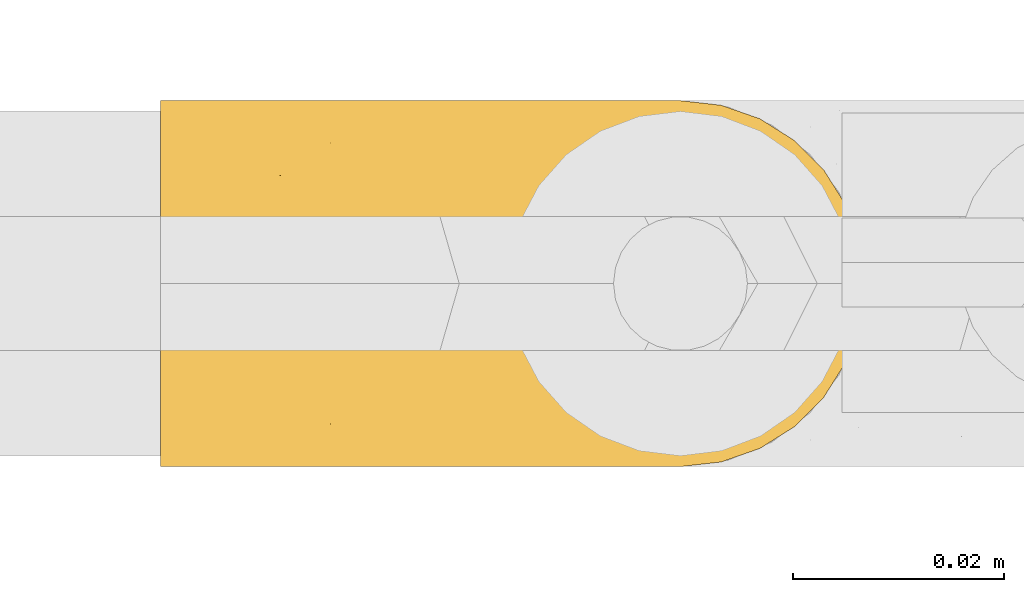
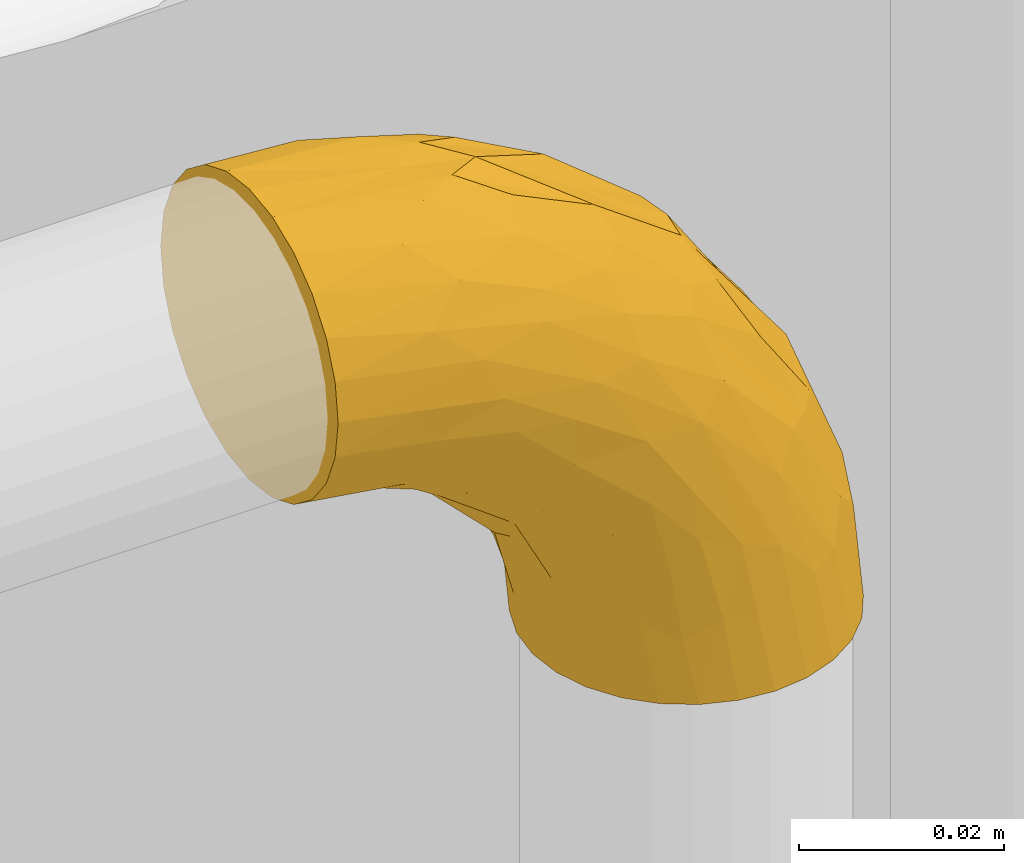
# One storey, part 5 of 32: 1 covering.
"""IFC2X3 building model written with IfcOpenShell, lengths in metres."""

from ifc_helpers import new_model, entity, si_unit, converted_unit, derived_unit, direction, frame, origin, place, context, subcontext, project, spatial, faceted_brep, material, type_object, element, save


model = new_model("IFC2X3")

# Units and contexts
model_context = context("Model", 3, precision=1e-05, world=origin(), true_north=direction((6.123031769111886e-17, 1.0)))
body_context = subcontext(model_context, "Body", "Model", "MODEL_VIEW")
ifc_project = project(units=[si_unit("LENGTHUNIT", "METRE"), si_unit("AREAUNIT", "SQUARE_METRE"), si_unit("VOLUMEUNIT", "CUBIC_METRE"), converted_unit("PLANEANGLEUNIT", "DEGREE", entity("IfcPlaneAngleMeasure", 0.017453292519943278), si_unit("PLANEANGLEUNIT", "RADIAN"), dimensions=[0, 0, 0, 0, 0, 0, 0]), si_unit("MASSUNIT", "GRAM", prefix="KILO"), derived_unit("MASSDENSITYUNIT", [(si_unit("MASSUNIT", "GRAM", prefix="KILO"), 1), (si_unit("LENGTHUNIT", "METRE"), -3)]), derived_unit("IONCONCENTRATIONUNIT", [(si_unit("MASSUNIT", "GRAM", prefix="KILO"), 1), (si_unit("LENGTHUNIT", "METRE"), -3)]), derived_unit("MOMENTOFINERTIAUNIT", [(si_unit("LENGTHUNIT", "METRE"), 4)]), si_unit("TIMEUNIT", "SECOND"), si_unit("FREQUENCYUNIT", "HERTZ"), si_unit("THERMODYNAMICTEMPERATUREUNIT", "DEGREE_CELSIUS"), derived_unit("THERMALTRANSMITTANCEUNIT", [(si_unit("MASSUNIT", "GRAM", prefix="KILO"), 1), (si_unit("THERMODYNAMICTEMPERATUREUNIT", "KELVIN"), -1), (si_unit("TIMEUNIT", "SECOND"), -3)]), derived_unit("THERMALCONDUCTANCEUNIT", [(si_unit("MASSUNIT", "GRAM", prefix="KILO"), 1), (si_unit("THERMODYNAMICTEMPERATUREUNIT", "KELVIN"), -1), (si_unit("TIMEUNIT", "SECOND"), -3), (si_unit("LENGTHUNIT", "METRE"), 1)]), derived_unit("VOLUMETRICFLOWRATEUNIT", [(si_unit("LENGTHUNIT", "METRE", prefix="DECI"), 3), (si_unit("TIMEUNIT", "SECOND"), -1)]), derived_unit("MASSFLOWRATEUNIT", [(si_unit("MASSUNIT", "GRAM", prefix="KILO"), 1), (si_unit("TIMEUNIT", "SECOND"), -1)]), derived_unit("ROTATIONALFREQUENCYUNIT", [(si_unit("TIMEUNIT", "SECOND"), -1)]), si_unit("ELECTRICCURRENTUNIT", "AMPERE"), si_unit("ELECTRICVOLTAGEUNIT", "VOLT"), si_unit("POWERUNIT", "WATT"), si_unit("FORCEUNIT", "NEWTON", prefix="KILO"), si_unit("ILLUMINANCEUNIT", "LUX"), si_unit("LUMINOUSFLUXUNIT", "LUMEN"), si_unit("LUMINOUSINTENSITYUNIT", "CANDELA"), si_unit("ENERGYUNIT", "JOULE"), derived_unit("USERDEFINED", [(si_unit("MASSUNIT", "GRAM", prefix="KILO"), -1), (si_unit("LENGTHUNIT", "METRE"), -2), (si_unit("TIMEUNIT", "SECOND"), 3), (si_unit("LUMINOUSFLUXUNIT", "LUMEN"), 1)]), derived_unit("USERDEFINED", [(si_unit("MASSUNIT", "GRAM", prefix="KILO"), 1), (si_unit("TIMEUNIT", "SECOND"), -3), (si_unit("LENGTHUNIT", "METRE"), 3), (si_unit("ELECTRICCURRENTUNIT", "AMPERE"), -2)]), derived_unit("SOUNDPOWERUNIT", [(si_unit("MASSUNIT", "GRAM", prefix="KILO"), 1), (si_unit("TIMEUNIT", "SECOND"), -3), (si_unit("LENGTHUNIT", "METRE"), 2)]), derived_unit("SOUNDPRESSUREUNIT", [(si_unit("MASSUNIT", "GRAM", prefix="KILO"), 1), (si_unit("LENGTHUNIT", "METRE"), -1), (si_unit("TIMEUNIT", "SECOND"), -2)]), derived_unit("LINEARVELOCITYUNIT", [(si_unit("LENGTHUNIT", "METRE"), 1), (si_unit("TIMEUNIT", "SECOND"), -1)]), si_unit("PRESSUREUNIT", "PASCAL"), derived_unit("USERDEFINED", [(si_unit("MASSUNIT", "GRAM", prefix="KILO"), 1), (si_unit("LENGTHUNIT", "METRE"), -2), (si_unit("TIMEUNIT", "SECOND"), -2)]), derived_unit("LINEARFORCEUNIT", [(si_unit("MASSUNIT", "GRAM", prefix="KILO"), 1), (si_unit("TIMEUNIT", "SECOND"), -2)]), derived_unit("PLANARFORCEUNIT", [(si_unit("MASSUNIT", "GRAM", prefix="KILO"), 1), (si_unit("LENGTHUNIT", "METRE"), -1), (si_unit("TIMEUNIT", "SECOND"), -2)]), derived_unit("SPECIFICHEATCAPACITYUNIT", [(si_unit("THERMODYNAMICTEMPERATUREUNIT", "KELVIN"), -1), (si_unit("LENGTHUNIT", "METRE"), 2), (si_unit("TIMEUNIT", "SECOND"), -2)]), derived_unit("HEATFLUXDENSITYUNIT", [(si_unit("MASSUNIT", "GRAM", prefix="KILO"), 1), (si_unit("TIMEUNIT", "SECOND"), -3)]), derived_unit("HEATINGVALUEUNIT", [(si_unit("LENGTHUNIT", "METRE"), 2), (si_unit("TIMEUNIT", "SECOND"), -2)]), derived_unit("VAPORPERMEABILITYUNIT", [(si_unit("LENGTHUNIT", "METRE"), -1), (si_unit("TIMEUNIT", "SECOND"), 1)]), derived_unit("DYNAMICVISCOSITYUNIT", [(si_unit("MASSUNIT", "GRAM", prefix="KILO"), 1), (si_unit("TIMEUNIT", "SECOND"), -1), (si_unit("LENGTHUNIT", "METRE"), -1)]), derived_unit("THERMALEXPANSIONCOEFFICIENTUNIT", [(si_unit("THERMODYNAMICTEMPERATUREUNIT", "KELVIN"), -1)]), derived_unit("MODULUSOFELASTICITYUNIT", [(si_unit("MASSUNIT", "GRAM", prefix="KILO"), 1), (si_unit("LENGTHUNIT", "METRE"), -1), (si_unit("TIMEUNIT", "SECOND"), -2)]), derived_unit("ISOTHERMALMOISTURECAPACITYUNIT", [(si_unit("MASSUNIT", "GRAM", prefix="KILO"), -1), (si_unit("LENGTHUNIT", "METRE"), 3)]), derived_unit("MOISTUREDIFFUSIVITYUNIT", [(si_unit("TIMEUNIT", "SECOND"), -1), (si_unit("LENGTHUNIT", "METRE"), 2)]), derived_unit("MASSPERLENGTHUNIT", [(si_unit("MASSUNIT", "GRAM", prefix="KILO"), 1), (si_unit("LENGTHUNIT", "METRE"), -1)]), derived_unit("THERMALRESISTANCEUNIT", [(si_unit("MASSUNIT", "GRAM", prefix="KILO"), -1), (si_unit("TIMEUNIT", "SECOND"), 3), (si_unit("THERMODYNAMICTEMPERATUREUNIT", "KELVIN"), 1)]), derived_unit("ACCELERATIONUNIT", [(si_unit("LENGTHUNIT", "METRE"), 1), (si_unit("TIMEUNIT", "SECOND"), -2)]), derived_unit("ANGULARVELOCITYUNIT", [(si_unit("TIMEUNIT", "SECOND"), -1), (si_unit("PLANEANGLEUNIT", "RADIAN"), 1)]), derived_unit("LINEARSTIFFNESSUNIT", [(si_unit("MASSUNIT", "GRAM", prefix="KILO"), 1), (si_unit("TIMEUNIT", "SECOND"), -2)]), derived_unit("WARPINGCONSTANTUNIT", [(si_unit("LENGTHUNIT", "METRE"), 6)]), derived_unit("LINEARMOMENTUNIT", [(si_unit("MASSUNIT", "GRAM", prefix="KILO"), 1), (si_unit("LENGTHUNIT", "METRE"), 1), (si_unit("TIMEUNIT", "SECOND"), -2)]), derived_unit("TORQUEUNIT", [(si_unit("MASSUNIT", "GRAM", prefix="KILO"), 1), (si_unit("LENGTHUNIT", "METRE"), 2), (si_unit("TIMEUNIT", "SECOND"), -2)])], contexts=[model_context])

# Site, building, storey
site_placement = place(None, origin())
site = spatial("IfcSite", under=ifc_project, at=site_placement, Name="Default", CompositionType="ELEMENT")
building_placement = place(site_placement, origin())
building = spatial("IfcBuilding", under=site, at=building_placement, CompositionType="ELEMENT")
storey_placement = place(building_placement, origin())
storey = spatial("IfcBuildingStorey", under=building, at=storey_placement, Name="Niveau 0", CompositionType="ELEMENT", Elevation=-1.949160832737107e-14)

# Covering
ifc_material = material(Name="Matériau du rendu 255-255-255")
covering_type = type_object("IfcCoveringType", Name="Isolation des canalisations:Par défaut", PredefinedType="INSULATION")
covering_placement = place(storey_placement, frame((-15.061249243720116, 1.3561078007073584, 0.05463137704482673)))
element("IfcCovering", 1, at=covering_placement, inside=storey, type_object=covering_type, material=ifc_material, Name="Isolation des canalisations:Par défaut", ObjectType="Isolation des canalisations:Par défaut", PredefinedType="INSULATION", context=body_context, shape_type="Brep", body=[
    faceted_brep([(0.050901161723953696, 0.03629527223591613, -0.06822852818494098), (0.05476382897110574, 0.03585983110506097, -0.06822852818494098), (0.05843178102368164, 0.034575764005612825, -0.06822852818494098), (0.06172135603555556, 0.032507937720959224, -0.06822852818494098), (0.0644679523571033, 0.029760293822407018, -0.06822852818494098), (0.06653418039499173, 0.026470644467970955, -0.06822852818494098), (0.06781666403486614, 0.02280380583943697, -0.06822852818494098), (0.06825116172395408, 0.018945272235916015, -0.06822852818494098), (0.06781572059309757, 0.015082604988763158, -0.06822852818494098), (0.06653165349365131, 0.011414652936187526, -0.06822852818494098), (0.06446382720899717, 0.008125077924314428, -0.06822852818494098), (0.06171618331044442, 0.005378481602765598, -0.06822852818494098), (0.05842653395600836, 0.0033122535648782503, -0.06822852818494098), (0.05475969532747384, 0.0020297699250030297, -0.06822852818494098), (0.050901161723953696, 0.0015952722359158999, -0.06822852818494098), (0.04703849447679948, 0.0020307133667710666, -0.06822852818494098), (0.04337054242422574, 0.003314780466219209, -0.06822852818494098), (0.040080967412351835, 0.005382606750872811, -0.06822852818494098), (0.037334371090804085, 0.008130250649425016, -0.06822852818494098), (0.03526814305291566, 0.011419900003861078, -0.06822852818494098), (0.03398565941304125, 0.015086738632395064, -0.06822852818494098), (0.03355116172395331, 0.018945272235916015, -0.06822852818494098), (0.03398660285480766, 0.022807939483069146, -0.06822852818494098), (0.035270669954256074, 0.026475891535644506, -0.06822852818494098), (0.03733849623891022, 0.029765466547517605, -0.06822852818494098), (0.040086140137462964, 0.03251206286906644, -0.06822852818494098), (0.043375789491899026, 0.03457829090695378, -0.06822852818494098), (0.047042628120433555, 0.035860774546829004, -0.06822852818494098), (0.0016068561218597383, 0.014454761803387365, -0.03570408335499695), (0.0016062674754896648, 0.010270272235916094, -0.03397081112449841), (0.0016053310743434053, 0.006676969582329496, -0.03121357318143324), (0.0016041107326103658, 0.003919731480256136, -0.027620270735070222), (0.0016026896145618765, 0.0021864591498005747, -0.023435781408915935), (0.0016011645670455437, 0.0015952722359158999, -0.01894527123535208), (0.001599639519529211, 0.0021864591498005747, -0.01445476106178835), (0.0015982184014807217, 0.0039197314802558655, -0.010270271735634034), (0.0015969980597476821, 0.006676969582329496, -0.006676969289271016), (0.0015960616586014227, 0.010270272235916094, -0.003919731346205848), (0.0015954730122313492, 0.014454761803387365, -0.0021864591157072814), (0.0015952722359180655, 0.018945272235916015, -0.0015952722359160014), (0.0015954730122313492, 0.023435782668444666, -0.0021864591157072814), (0.0015960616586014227, 0.02762027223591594, -0.003919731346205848), (0.0015969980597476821, 0.03121357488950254, -0.006676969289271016), (0.0015982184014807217, 0.033970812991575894, -0.010270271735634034), (0.001599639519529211, 0.03570408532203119, -0.01445476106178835), (0.0016011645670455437, 0.03629527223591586, -0.018945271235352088), (0.0016026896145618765, 0.03570408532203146, -0.023435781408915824), (0.0016041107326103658, 0.033970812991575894, -0.02762027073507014), (0.0016053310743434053, 0.03121357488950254, -0.03121357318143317), (0.0016062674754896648, 0.02762027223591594, -0.03397081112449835), (0.0016068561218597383, 0.023435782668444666, -0.03570408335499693), (0.0016070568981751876, 0.018945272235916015, -0.036295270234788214), (0.04461032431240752, 0.03133374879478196, -0.024350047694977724), (0.05521450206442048, 0.0324509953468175, -0.04087220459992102), (0.046634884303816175, 0.03378611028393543, -0.031229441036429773), (0.022635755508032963, 0.02214963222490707, -0.005311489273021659), (0.018503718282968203, 0.018945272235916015, -0.004953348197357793), (0.0271016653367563, 0.018945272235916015, -0.006660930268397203), (0.026426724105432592, 0.028815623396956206, -0.009718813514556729), (0.03474717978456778, 0.030681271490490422, -0.015748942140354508), (0.027246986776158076, 0.032742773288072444, -0.014196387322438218), (0.01764462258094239, 0.02524037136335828, -0.004770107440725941), (0.013004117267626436, 0.029200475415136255, -0.00598335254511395), (0.042956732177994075, 0.03568201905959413, -0.03371045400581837), (0.03646051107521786, 0.03629527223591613, -0.03337408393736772), (0.031417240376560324, 0.03597714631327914, -0.024895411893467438), (0.06145159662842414, 0.03075237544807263, -0.05199775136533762), (0.05371620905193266, 0.029890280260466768, -0.03326065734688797), (0.018353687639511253, 0.035814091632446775, -0.01758094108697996), (0.026340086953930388, 0.034392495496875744, -0.016665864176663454), (0.05972009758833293, 0.023163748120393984, -0.03668472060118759), (0.06536093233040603, 0.024353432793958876, -0.052030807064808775), (0.05993411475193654, 0.02745046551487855, -0.04089180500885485), (0.017675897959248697, 0.03226268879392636, -0.009998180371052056), (0.04714809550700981, 0.03629527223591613, -0.04936477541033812), (0.041804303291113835, 0.03629527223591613, -0.04136942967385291), (0.01317107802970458, 0.03478430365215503, -0.013060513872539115), (0.03767981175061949, 0.0239596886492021, -0.013079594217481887), (0.04804784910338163, 0.022772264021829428, -0.021032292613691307), (0.05010110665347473, 0.026247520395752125, -0.024901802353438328), (0.0657140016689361, 0.018945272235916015, -0.055476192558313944), (0.03836817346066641, 0.02754193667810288, -0.015400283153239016), (0.02803531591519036, 0.024608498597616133, -0.008092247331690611), (0.06460536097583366, 0.027861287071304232, -0.055981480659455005), (0.06317684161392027, 0.018945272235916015, -0.04272385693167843), (0.04921925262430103, 0.03629527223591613, -0.05977487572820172), (0.051798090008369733, 0.0359148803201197, -0.0514959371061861), (0.05932944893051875, 0.03331084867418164, -0.055907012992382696), (0.03697233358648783, 0.03484788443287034, -0.024515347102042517), (0.05614785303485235, 0.035026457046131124, -0.05640918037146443), (0.036231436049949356, 0.03308464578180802, -0.020031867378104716), (0.0524249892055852, 0.03479715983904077, -0.043889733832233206), (0.028463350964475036, 0.03629527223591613, -0.028033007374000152), (0.020466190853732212, 0.03629527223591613, -0.0226919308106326), (0.04902462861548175, 0.03629527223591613, -0.05879665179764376), (0.055951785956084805, 0.018945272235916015, -0.03191377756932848), (0.04574831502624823, 0.02883725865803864, -0.02251785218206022), (0.03791419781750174, 0.018945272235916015, -0.013882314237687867), (0.010055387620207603, 0.03629527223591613, -0.02062430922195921), (0.048726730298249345, 0.018945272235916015, -0.02110369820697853), (0.035626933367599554, 0.028742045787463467, -0.06011335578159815), (0.01276621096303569, 0.035509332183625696, -0.025539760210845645), (0.020812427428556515, 0.029715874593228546, -0.03815001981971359), (0.012292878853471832, 0.03027910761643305, -0.03369396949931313), (0.022515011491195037, 0.03257177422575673, -0.035841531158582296), (0.04261328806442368, 0.03596380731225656, -0.04756628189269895), (0.045406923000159, 0.03575450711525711, -0.05792307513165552), (0.04015097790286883, 0.03464376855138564, -0.051783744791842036), (0.022047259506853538, 0.03590336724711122, -0.027442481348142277), (0.017605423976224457, 0.033787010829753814, -0.031238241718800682), (0.031229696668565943, 0.02198852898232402, -0.055574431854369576), (0.03345482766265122, 0.023813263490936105, -0.06107740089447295), (0.031331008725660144, 0.018945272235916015, -0.05994467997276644), (0.03423440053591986, 0.03344866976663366, -0.045488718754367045), (0.0372953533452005, 0.035640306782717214, -0.041529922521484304), (0.008893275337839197, 0.0332157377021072, -0.029490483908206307), (0.014367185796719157, 0.02263447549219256, -0.03851849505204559), (0.009891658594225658, 0.018945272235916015, -0.038512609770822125), (0.007593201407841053, 0.021963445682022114, -0.03659004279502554), (0.03800500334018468, 0.03195866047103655, -0.05795974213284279), (0.0330497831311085, 0.03039145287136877, -0.050181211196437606), (0.009238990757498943, 0.025153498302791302, -0.036036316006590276), (0.016775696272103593, 0.026503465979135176, -0.038167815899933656), (0.04177301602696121, 0.03413194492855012, -0.060492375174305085), (0.026742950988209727, 0.02725739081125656, -0.04524146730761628), (0.027452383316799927, 0.03144051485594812, -0.04139837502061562), (0.029271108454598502, 0.018945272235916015, -0.052258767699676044), (0.02325566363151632, 0.02282531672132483, -0.044149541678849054), (0.01757827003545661, 0.018945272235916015, -0.040569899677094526), (0.02887978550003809, 0.03537573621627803, -0.03406209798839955), (0.03189750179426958, 0.02543525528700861, -0.05463042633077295), (0.028271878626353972, 0.023658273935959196, -0.049483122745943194), (0.023424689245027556, 0.018945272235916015, -0.04641433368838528), (0.02918236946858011, 0.03385027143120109, -0.038689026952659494), (0.012292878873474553, 0.007611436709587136, -0.03369396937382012), (0.03562303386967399, 0.009153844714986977, -0.06011276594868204), (0.037998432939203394, 0.005936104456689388, -0.0579540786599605), (0.007593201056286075, 0.015927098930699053, -0.0365900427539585), (0.04260295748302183, 0.0019295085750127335, -0.0475767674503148), (0.041804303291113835, 0.0015952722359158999, -0.04136942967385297), (0.03726655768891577, 0.0022576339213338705, -0.0415349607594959), (0.03304205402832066, 0.007506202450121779, -0.050180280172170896), (0.02745238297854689, 0.006450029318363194, -0.04139837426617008), (0.02919296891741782, 0.004039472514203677, -0.03869708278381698), (0.02252460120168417, 0.0053150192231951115, -0.035842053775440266), (0.03345318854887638, 0.014084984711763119, -0.06108037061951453), (0.028879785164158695, 0.002514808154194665, -0.034062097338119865), (0.022047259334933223, 0.0019871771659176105, -0.027442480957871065), (0.017605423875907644, 0.0041035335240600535, -0.031238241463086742), (0.012766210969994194, 0.0023812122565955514, -0.02553976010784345), (0.010055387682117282, 0.0015952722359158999, -0.02062430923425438), (0.04176665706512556, 0.0037612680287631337, -0.06048489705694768), (0.04540129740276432, 0.0021371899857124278, -0.05791883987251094), (0.040140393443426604, 0.003248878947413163, -0.05177033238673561), (0.00923899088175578, 0.012737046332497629, -0.036036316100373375), (0.008893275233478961, 0.004674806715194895, -0.029490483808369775), (0.03423100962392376, 0.004449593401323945, -0.04550439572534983), (0.014367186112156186, 0.015256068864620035, -0.03851849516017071), (0.02826428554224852, 0.014233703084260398, -0.04947303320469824), (0.02671609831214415, 0.0106478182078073, -0.04522398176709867), (0.023236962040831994, 0.015070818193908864, -0.044134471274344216), (0.031229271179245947, 0.015905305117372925, -0.055574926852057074), (0.031899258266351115, 0.012460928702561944, -0.05463989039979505), (0.016775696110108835, 0.011387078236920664, -0.038167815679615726), (0.04921925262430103, 0.0015952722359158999, -0.059774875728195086), (0.04902462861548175, 0.0015952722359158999, -0.05879665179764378), (0.04714809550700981, 0.0015952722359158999, -0.04936477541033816), (0.020466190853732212, 0.0015952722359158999, -0.02269193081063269), (0.028463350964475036, 0.0015952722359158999, -0.02803300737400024), (0.020805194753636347, 0.008171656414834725, -0.03814257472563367), (0.03646051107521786, 0.0015952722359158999, -0.033374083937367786), (0.027226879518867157, 0.005144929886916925, -0.01419097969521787), (0.0347646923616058, 0.007215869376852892, -0.015752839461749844), (0.026426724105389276, 0.009074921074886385, -0.00971881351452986), (0.02263575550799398, 0.01574091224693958, -0.005311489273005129), (0.028035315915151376, 0.013282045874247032, -0.008092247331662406), (0.03767981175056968, 0.013930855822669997, -0.01307959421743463), (0.059934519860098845, 0.010434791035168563, -0.040899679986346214), (0.06535991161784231, 0.013532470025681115, -0.05203297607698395), (0.05971370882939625, 0.014723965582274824, -0.0366744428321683), (0.05520951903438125, 0.005435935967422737, -0.0408723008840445), (0.04661374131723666, 0.00409876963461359, -0.031218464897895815), (0.05242830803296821, 0.0030909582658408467, -0.0439092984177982), (0.042976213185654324, 0.002206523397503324, -0.033745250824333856), (0.01834659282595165, 0.0020764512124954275, -0.017578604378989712), (0.026340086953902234, 0.0034980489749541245, -0.01666586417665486), (0.0362144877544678, 0.00481023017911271, -0.02001220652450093), (0.013169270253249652, 0.0031068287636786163, -0.013058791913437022), (0.017644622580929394, 0.012650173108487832, -0.004770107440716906), (0.06460179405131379, 0.01002413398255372, -0.05597922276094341), (0.01300411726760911, 0.00869006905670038, -0.005983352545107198), (0.03834431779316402, 0.01035288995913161, -0.015380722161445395), (0.017675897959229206, 0.005627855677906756, -0.009998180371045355), (0.05932452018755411, 0.00457627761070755, -0.05590810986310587), (0.06144778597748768, 0.007133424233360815, -0.05200054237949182), (0.051794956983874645, 0.001974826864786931, -0.05149897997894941), (0.057843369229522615, 0.007727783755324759, -0.040890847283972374), (0.044610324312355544, 0.006556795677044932, -0.0243500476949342), (0.05617272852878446, 0.0028519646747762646, -0.05666846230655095), (0.048059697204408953, 0.015114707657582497, -0.0210450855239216), (0.050093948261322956, 0.011634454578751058, -0.024899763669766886), (0.031422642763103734, 0.001914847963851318, -0.024890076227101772), (0.03702357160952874, 0.0030484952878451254, -0.024539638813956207), (0.04571093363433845, 0.009051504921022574, -0.02248350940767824), (0.053656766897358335, 0.009268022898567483, -0.031519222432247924)], [[[0, 1, 2, 3, 4, 5, 6, 7, 8, 9, 10, 11, 12, 13, 14, 15, 16, 17, 18, 19, 20, 21, 22, 23, 24, 25, 26, 27]], [[28, 29, 30, 31, 32, 33, 34, 35, 36, 37, 38, 39, 40, 41, 42, 43, 44, 45, 46, 47, 48, 49, 50, 51]], [[52, 53, 54]], [[55, 56, 57]], [[58, 59, 60]], [[61, 58, 62]], [[63, 64, 65]], [[61, 41, 40]], [[66, 53, 67]], [[68, 69, 65]], [[70, 71, 72]], [[62, 73, 42]], [[63, 74, 75, 64]], [[45, 44, 68]], [[69, 68, 76]], [[77, 78, 79]], [[42, 73, 43]], [[80, 7, 6]], [[58, 81, 59]], [[61, 55, 82]], [[71, 5, 83]], [[84, 71, 70]], [[83, 5, 4]], [[6, 71, 80]], [[71, 84, 80]], [[77, 55, 57]], [[5, 71, 6]], [[3, 66, 4]], [[1, 0, 85]], [[63, 86, 74]], [[66, 87, 53]], [[62, 42, 41]], [[63, 65, 88]], [[1, 86, 89]], [[40, 56, 55]], [[73, 60, 76]], [[83, 72, 71]], [[90, 59, 52]], [[40, 55, 61]], [[87, 66, 3]], [[4, 66, 83]], [[87, 3, 2]], [[72, 83, 66]], [[91, 89, 86]], [[53, 87, 91]], [[54, 53, 91]], [[67, 53, 52]], [[63, 54, 91]], [[54, 88, 90]], [[91, 87, 89]], [[65, 64, 92, 93]], [[86, 63, 91]], [[86, 85, 94, 74]], [[1, 85, 86]], [[70, 72, 79]], [[78, 95, 70]], [[67, 79, 72]], [[59, 81, 96]], [[40, 39, 56]], [[77, 57, 97]], [[82, 55, 77]], [[87, 2, 89]], [[1, 89, 2]], [[81, 82, 77]], [[58, 61, 82]], [[68, 65, 93]], [[88, 65, 69]], [[68, 93, 98, 45]], [[76, 68, 44]], [[90, 88, 69]], [[54, 63, 88]], [[60, 90, 69]], [[54, 90, 52]], [[59, 90, 60]], [[82, 81, 58]], [[77, 79, 81]], [[96, 81, 79]], [[44, 43, 76]], [[73, 76, 43]], [[61, 62, 41]], [[73, 62, 58]], [[76, 60, 69]], [[60, 73, 58]], [[70, 79, 78]], [[95, 84, 70]], [[67, 52, 96]], [[78, 97, 99]], [[66, 67, 72]], [[97, 78, 77]], [[78, 99, 95]], [[67, 96, 79]], [[59, 96, 52]], [[100, 24, 23]], [[93, 101, 98]], [[102, 103, 104]], [[98, 101, 46]], [[105, 106, 107]], [[108, 109, 101]], [[110, 111, 112]], [[92, 108, 93]], [[113, 114, 107]], [[47, 115, 48]], [[116, 117, 118]], [[49, 48, 103]], [[119, 100, 120]], [[100, 119, 24]], [[121, 122, 116]], [[119, 120, 113]], [[103, 122, 121]], [[115, 103, 48]], [[119, 107, 123]], [[123, 26, 25]], [[118, 51, 50]], [[26, 106, 27]], [[106, 74, 94]], [[46, 101, 47]], [[115, 101, 109]], [[123, 106, 26]], [[124, 125, 120]], [[22, 21, 112]], [[119, 25, 24]], [[110, 112, 126]], [[111, 23, 22]], [[114, 75, 105]], [[116, 127, 128]], [[122, 127, 116]], [[64, 129, 92]], [[106, 94, 27]], [[111, 100, 23]], [[109, 129, 104]], [[130, 124, 120]], [[130, 120, 100]], [[120, 125, 113]], [[130, 110, 131]], [[102, 124, 122]], [[121, 118, 50]], [[27, 94, 85, 0]], [[128, 117, 116]], [[127, 122, 124]], [[131, 124, 130]], [[131, 132, 127]], [[119, 123, 25]], [[106, 123, 107]], [[108, 101, 93]], [[113, 107, 119]], [[129, 133, 104]], [[125, 133, 113]], [[113, 133, 114]], [[129, 64, 114]], [[75, 74, 105]], [[92, 129, 108]], [[109, 108, 129]], [[46, 45, 98]], [[111, 110, 130]], [[126, 131, 110]], [[124, 131, 127]], [[111, 130, 100]], [[112, 111, 22]], [[50, 49, 121]], [[103, 121, 49]], [[101, 115, 47]], [[103, 115, 109]], [[116, 118, 121]], [[51, 118, 117]], [[133, 125, 104]], [[114, 133, 129]], [[102, 104, 125]], [[103, 109, 104]], [[124, 102, 125]], [[103, 102, 122]], [[114, 64, 75]], [[106, 105, 74]], [[107, 114, 105]], [[132, 131, 126]], [[132, 128, 127]], [[30, 29, 134]], [[135, 18, 136]], [[51, 117, 137]], [[138, 139, 140]], [[141, 135, 136]], [[142, 143, 144]], [[145, 112, 20]], [[146, 147, 148]], [[149, 150, 32]], [[151, 152, 153]], [[134, 29, 154]], [[155, 31, 30]], [[18, 135, 19]], [[149, 32, 31]], [[156, 141, 136]], [[157, 117, 128]], [[158, 159, 160]], [[126, 112, 161]], [[161, 145, 162]], [[155, 149, 31]], [[154, 28, 137]], [[17, 151, 136]], [[18, 17, 136]], [[145, 19, 135]], [[135, 141, 162]], [[17, 16, 151]], [[16, 15, 152]], [[146, 144, 143]], [[143, 140, 146]], [[159, 163, 160]], [[15, 14, 164, 165]], [[15, 165, 152]], [[138, 152, 166]], [[141, 159, 162]], [[155, 134, 148]], [[112, 21, 20]], [[167, 147, 168]], [[144, 169, 142]], [[145, 135, 162]], [[156, 136, 153]], [[141, 142, 159]], [[169, 159, 142]], [[157, 160, 163]], [[157, 128, 160]], [[166, 152, 165]], [[154, 137, 157]], [[157, 163, 154]], [[158, 132, 126]], [[126, 161, 158]], [[152, 151, 16]], [[136, 151, 153]], [[168, 146, 170]], [[149, 147, 167]], [[156, 142, 141]], [[140, 156, 153]], [[143, 142, 156]], [[140, 153, 138]], [[170, 146, 140]], [[148, 147, 149]], [[146, 168, 147]], [[150, 149, 167]], [[150, 33, 32]], [[158, 161, 162]], [[159, 158, 162]], [[160, 132, 158]], [[112, 145, 161]], [[19, 145, 20]], [[134, 154, 163]], [[29, 28, 154]], [[134, 155, 30]], [[149, 155, 148]], [[51, 137, 28]], [[157, 137, 117]], [[140, 143, 156]], [[144, 146, 148]], [[148, 134, 144]], [[169, 134, 163]], [[134, 169, 144]], [[159, 169, 163]], [[139, 138, 166]], [[139, 170, 140]], [[152, 138, 153]], [[160, 128, 132]], [[171, 172, 173]], [[174, 175, 176]], [[177, 178, 179]], [[180, 181, 182]], [[183, 182, 181]], [[184, 33, 150, 167]], [[171, 185, 186]], [[184, 187, 34]], [[174, 38, 188]], [[177, 189, 178]], [[36, 190, 37]], [[176, 175, 191]], [[192, 36, 35]], [[37, 190, 188]], [[174, 176, 57]], [[193, 11, 194]], [[183, 166, 195]], [[175, 174, 188]], [[195, 166, 165, 164]], [[56, 174, 57]], [[10, 194, 11]], [[196, 197, 180]], [[179, 178, 84]], [[12, 193, 198]], [[11, 193, 12]], [[190, 192, 173]], [[179, 95, 199]], [[189, 9, 178]], [[193, 180, 182]], [[9, 189, 10]], [[8, 80, 178]], [[177, 179, 200]], [[201, 170, 183]], [[177, 194, 189]], [[37, 188, 38]], [[178, 9, 8]], [[194, 177, 196]], [[164, 14, 13]], [[187, 192, 35]], [[167, 201, 184]], [[194, 10, 189]], [[180, 193, 194]], [[198, 182, 195]], [[196, 180, 194]], [[181, 180, 197]], [[185, 202, 186]], [[201, 167, 168, 170]], [[201, 202, 185]], [[183, 170, 139, 166]], [[195, 182, 183]], [[164, 13, 195]], [[198, 13, 12]], [[199, 95, 99]], [[200, 199, 176]], [[191, 173, 172]], [[200, 203, 204]], [[174, 56, 38]], [[56, 39, 38]], [[199, 97, 176]], [[182, 198, 193]], [[13, 198, 195]], [[188, 173, 175]], [[191, 175, 173]], [[202, 201, 183]], [[184, 201, 185]], [[187, 184, 185]], [[33, 184, 34]], [[183, 181, 202]], [[186, 181, 197]], [[181, 186, 202]], [[186, 197, 172]], [[191, 203, 200]], [[171, 173, 192]], [[203, 172, 197]], [[200, 176, 191]], [[187, 185, 171]], [[35, 34, 187]], [[192, 190, 36]], [[188, 190, 173]], [[172, 171, 186]], [[187, 171, 192]], [[179, 84, 95]], [[80, 8, 7]], [[80, 84, 178]], [[97, 57, 176]], [[177, 200, 204]], [[179, 199, 200]], [[97, 199, 99]], [[172, 203, 191]], [[204, 197, 196]], [[197, 204, 203]], [[177, 204, 196]]]),
])

save(model, "model.ifc")
